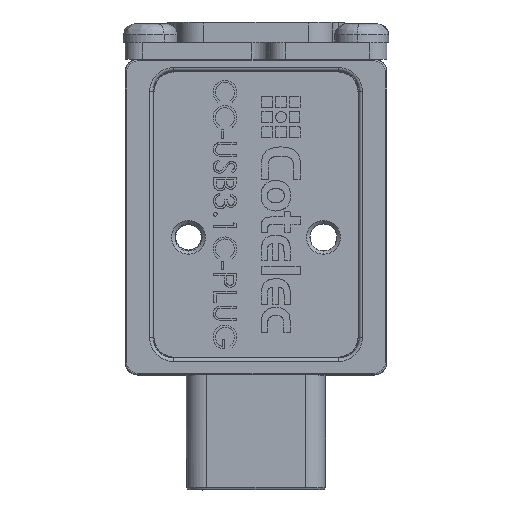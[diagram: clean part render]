
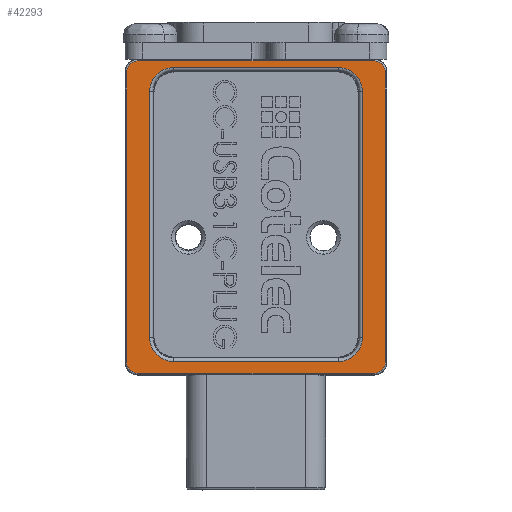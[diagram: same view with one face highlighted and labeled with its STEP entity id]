
A CAD part, front view. The second image highlights one B-rep face of the part: STEP entity #42293.
In plain terms, the highlighted planar face has unit normal (0, -1, 0).
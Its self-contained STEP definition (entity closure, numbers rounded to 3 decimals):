
#1069 = VERTEX_POINT ( 'NONE', #94620 ) ;
#3414 = DIRECTION ( 'NONE',  ( -1., 0., 0. ) ) ;
#6661 = DIRECTION ( 'NONE',  ( 0., 0., 1. ) ) ;
#7093 = EDGE_CURVE ( 'NONE', #139030, #149103, #85708, .T. ) ;
#7817 = CARTESIAN_POINT ( 'NONE',  ( -4.9, 0., -17.903 ) ) ;
#8335 = EDGE_CURVE ( 'NONE', #173469, #26511, #52121, .T. ) ;
#9746 = VERTEX_POINT ( 'NONE', #133762 ) ;
#11630 = EDGE_CURVE ( 'NONE', #135409, #143140, #79711, .T. ) ;
#12595 = LINE ( 'NONE', #52069, #138072 ) ;
#15011 = CARTESIAN_POINT ( 'NONE',  ( 6.303, 0., -1.9 ) ) ;
#15417 = EDGE_CURVE ( 'NONE', #108824, #1069, #65138, .T. ) ;
#19071 = EDGE_LOOP ( 'NONE', ( #70111, #125282, #143530, #185592, #49155, #134286, #36695, #123161 ) ) ;
#19462 = AXIS2_PLACEMENT_3D ( 'NONE', #176726, #133165, #163522 ) ;
#20229 = ORIENTED_EDGE ( 'NONE', *, *, #126844, .T. ) ;
#20375 = DIRECTION ( 'NONE',  ( 0., 1., 0. ) ) ;
#20555 = CARTESIAN_POINT ( 'NONE',  ( 0., 0., -0.09 ) ) ;
#22078 = ORIENTED_EDGE ( 'NONE', *, *, #15417, .T. ) ;
#22725 = CARTESIAN_POINT ( 'NONE',  ( 6.303, 0., -16.5 ) ) ;
#23563 = LINE ( 'NONE', #20555, #177412 ) ;
#24792 = VECTOR ( 'NONE', #117499, 1000. ) ;
#26511 = VERTEX_POINT ( 'NONE', #165340 ) ;
#27542 = VERTEX_POINT ( 'NONE', #171621 ) ;
#32523 = CARTESIAN_POINT ( 'NONE',  ( 7., 0., -0.75 ) ) ;
#35949 = AXIS2_PLACEMENT_3D ( 'NONE', #40259, #161189, #73988 ) ;
#36254 = DIRECTION ( 'NONE',  ( 0., 0., 1. ) ) ;
#36695 = ORIENTED_EDGE ( 'NONE', *, *, #142561, .T. ) ;
#37085 = CARTESIAN_POINT ( 'NONE',  ( -7., 0., -17.95 ) ) ;
#39066 = DIRECTION ( 'NONE',  ( 0., 1., 0. ) ) ;
#39079 = CARTESIAN_POINT ( 'NONE',  ( -7., 0., -0.75 ) ) ;
#40259 = CARTESIAN_POINT ( 'NONE',  ( -4.9, 0., -16.5 ) ) ;
#41518 = VERTEX_POINT ( 'NONE', #68588 ) ;
#42293 = ADVANCED_FACE ( 'NONE', ( #158554, #182208 ), #85001, .F. ) ;
#45801 = LINE ( 'NONE', #127365, #90846 ) ;
#45865 = DIRECTION ( 'NONE',  ( 0., 0., 1. ) ) ;
#47917 = CARTESIAN_POINT ( 'NONE',  ( 6.303, 0., 0. ) ) ;
#49155 = ORIENTED_EDGE ( 'NONE', *, *, #8335, .T. ) ;
#52069 = CARTESIAN_POINT ( 'NONE',  ( 0., 0., -17.903 ) ) ;
#52121 = LINE ( 'NONE', #183389, #73388 ) ;
#52374 = CARTESIAN_POINT ( 'NONE',  ( 4.9, 0., -17.903 ) ) ;
#54924 = VERTEX_POINT ( 'NONE', #7817 ) ;
#59899 = ORIENTED_EDGE ( 'NONE', *, *, #7093, .T. ) ;
#60275 = CARTESIAN_POINT ( 'NONE',  ( 7., 0., -17.95 ) ) ;
#60472 = DIRECTION ( 'NONE',  ( 0., -1., 0. ) ) ;
#61574 = DIRECTION ( 'NONE',  ( 0., 0., 1. ) ) ;
#62107 = EDGE_CURVE ( 'NONE', #41518, #108824, #74423, .T. ) ;
#62580 = CARTESIAN_POINT ( 'NONE',  ( 7.66, 0., -17.95 ) ) ;
#65138 = LINE ( 'NONE', #192615, #24792 ) ;
#66358 = VERTEX_POINT ( 'NONE', #72680 ) ;
#68588 = CARTESIAN_POINT ( 'NONE',  ( 7., 0., -18.61 ) ) ;
#69568 = DIRECTION ( 'NONE',  ( 0., 0., 1. ) ) ;
#70111 = ORIENTED_EDGE ( 'NONE', *, *, #75360, .T. ) ;
#72680 = CARTESIAN_POINT ( 'NONE',  ( -7., 0., -0.09 ) ) ;
#73388 = VECTOR ( 'NONE', #185303, 1000. ) ;
#73988 = DIRECTION ( 'NONE',  ( 0., 0., 1. ) ) ;
#74423 = CIRCLE ( 'NONE', #81315, 0.66 ) ;
#75169 = AXIS2_PLACEMENT_3D ( 'NONE', #189653, #39066, #144831 ) ;
#75360 = EDGE_CURVE ( 'NONE', #143140, #54924, #12595, .T. ) ;
#79711 = CIRCLE ( 'NONE', #110110, 1.403 ) ;
#81156 = DIRECTION ( 'NONE',  ( 1., 0., 0. ) ) ;
#81315 = AXIS2_PLACEMENT_3D ( 'NONE', #60275, #121101, #61574 ) ;
#81346 = DIRECTION ( 'NONE',  ( 0., 0., -1. ) ) ;
#85001 = PLANE ( 'NONE',  #151193 ) ;
#85672 = DIRECTION ( 'NONE',  ( 0., 0., 1. ) ) ;
#85708 = LINE ( 'NONE', #126259, #109222 ) ;
#86100 = DIRECTION ( 'NONE',  ( 0., -1., 0. ) ) ;
#90846 = VECTOR ( 'NONE', #81156, 1000. ) ;
#94620 = CARTESIAN_POINT ( 'NONE',  ( 7.66, 0., -0.75 ) ) ;
#95956 = EDGE_CURVE ( 'NONE', #171947, #173469, #109102, .T. ) ;
#99007 = DIRECTION ( 'NONE',  ( -1., 0., 0. ) ) ;
#104514 = VERTEX_POINT ( 'NONE', #116266 ) ;
#104661 = CIRCLE ( 'NONE', #195045, 0.66 ) ;
#105445 = EDGE_CURVE ( 'NONE', #26511, #171778, #167866, .T. ) ;
#106059 = ORIENTED_EDGE ( 'NONE', *, *, #62107, .T. ) ;
#108824 = VERTEX_POINT ( 'NONE', #62580 ) ;
#109102 = CIRCLE ( 'NONE', #19462, 1.403 ) ;
#109222 = VECTOR ( 'NONE', #81346, 1000. ) ;
#109344 = ORIENTED_EDGE ( 'NONE', *, *, #165290, .T. ) ;
#110110 = AXIS2_PLACEMENT_3D ( 'NONE', #142697, #20375, #36254 ) ;
#113874 = DIRECTION ( 'NONE',  ( 0., -1., 0. ) ) ;
#116266 = CARTESIAN_POINT ( 'NONE',  ( 7., 0., -0.09 ) ) ;
#117068 = EDGE_CURVE ( 'NONE', #54924, #9746, #158128, .T. ) ;
#117499 = DIRECTION ( 'NONE',  ( 0., 0., 1. ) ) ;
#121101 = DIRECTION ( 'NONE',  ( 0., -1., 0. ) ) ;
#121392 = DIRECTION ( 'NONE',  ( 0., 0., -1. ) ) ;
#121722 = CARTESIAN_POINT ( 'NONE',  ( -7.66, 0., -17.95 ) ) ;
#123161 = ORIENTED_EDGE ( 'NONE', *, *, #11630, .T. ) ;
#125282 = ORIENTED_EDGE ( 'NONE', *, *, #117068, .T. ) ;
#126259 = CARTESIAN_POINT ( 'NONE',  ( -7.66, 0., 0. ) ) ;
#126844 = EDGE_CURVE ( 'NONE', #149103, #27542, #179805, .T. ) ;
#127365 = CARTESIAN_POINT ( 'NONE',  ( 0., 0., -18.61 ) ) ;
#130584 = CARTESIAN_POINT ( 'NONE',  ( 0., 0., 0. ) ) ;
#133165 = DIRECTION ( 'NONE',  ( 0., 1., 0. ) ) ;
#133762 = CARTESIAN_POINT ( 'NONE',  ( -6.303, 0., -16.5 ) ) ;
#134286 = ORIENTED_EDGE ( 'NONE', *, *, #105445, .T. ) ;
#135409 = VERTEX_POINT ( 'NONE', #22725 ) ;
#138024 = CARTESIAN_POINT ( 'NONE',  ( -6.303, 0., -1.9 ) ) ;
#138072 = VECTOR ( 'NONE', #99007, 1000. ) ;
#138366 = EDGE_CURVE ( 'NONE', #9746, #171947, #144189, .T. ) ;
#139030 = VERTEX_POINT ( 'NONE', #159238 ) ;
#141662 = VECTOR ( 'NONE', #121392, 1000. ) ;
#142561 = EDGE_CURVE ( 'NONE', #171778, #135409, #172353, .T. ) ;
#142697 = CARTESIAN_POINT ( 'NONE',  ( 4.9, 0., -16.5 ) ) ;
#143140 = VERTEX_POINT ( 'NONE', #52374 ) ;
#143530 = ORIENTED_EDGE ( 'NONE', *, *, #138366, .T. ) ;
#144189 = LINE ( 'NONE', #151007, #189008 ) ;
#144831 = DIRECTION ( 'NONE',  ( 0., 0., 1. ) ) ;
#145713 = DIRECTION ( 'NONE',  ( 0., 1., 0. ) ) ;
#148910 = AXIS2_PLACEMENT_3D ( 'NONE', #37085, #113874, #6661 ) ;
#149103 = VERTEX_POINT ( 'NONE', #121722 ) ;
#149523 = EDGE_LOOP ( 'NONE', ( #159097, #106059, #22078, #169682, #191737, #109344, #59899, #20229 ) ) ;
#151007 = CARTESIAN_POINT ( 'NONE',  ( -6.303, 0., 0. ) ) ;
#151193 = AXIS2_PLACEMENT_3D ( 'NONE', #130584, #145713, #85672 ) ;
#158128 = CIRCLE ( 'NONE', #35949, 1.403 ) ;
#158554 = FACE_OUTER_BOUND ( 'NONE', #149523, .T. ) ;
#159097 = ORIENTED_EDGE ( 'NONE', *, *, #172052, .T. ) ;
#159238 = CARTESIAN_POINT ( 'NONE',  ( -7.66, 0., -0.75 ) ) ;
#161189 = DIRECTION ( 'NONE',  ( 0., 1., 0. ) ) ;
#163522 = DIRECTION ( 'NONE',  ( 0., 0., 1. ) ) ;
#165290 = EDGE_CURVE ( 'NONE', #66358, #139030, #104661, .T. ) ;
#165340 = CARTESIAN_POINT ( 'NONE',  ( 4.9, 0., -0.497 ) ) ;
#166211 = DIRECTION ( 'NONE',  ( 0., 0., 1. ) ) ;
#167866 = CIRCLE ( 'NONE', #75169, 1.403 ) ;
#169682 = ORIENTED_EDGE ( 'NONE', *, *, #193215, .T. ) ;
#171621 = CARTESIAN_POINT ( 'NONE',  ( -7., 0., -18.61 ) ) ;
#171778 = VERTEX_POINT ( 'NONE', #15011 ) ;
#171947 = VERTEX_POINT ( 'NONE', #138024 ) ;
#172052 = EDGE_CURVE ( 'NONE', #27542, #41518, #45801, .T. ) ;
#172353 = LINE ( 'NONE', #47917, #141662 ) ;
#173188 = AXIS2_PLACEMENT_3D ( 'NONE', #32523, #60472, #45865 ) ;
#173469 = VERTEX_POINT ( 'NONE', #178563 ) ;
#176726 = CARTESIAN_POINT ( 'NONE',  ( -4.9, 0., -1.9 ) ) ;
#177412 = VECTOR ( 'NONE', #3414, 1000. ) ;
#178563 = CARTESIAN_POINT ( 'NONE',  ( -4.9, 0., -0.497 ) ) ;
#179805 = CIRCLE ( 'NONE', #148910, 0.66 ) ;
#182208 = FACE_BOUND ( 'NONE', #19071, .T. ) ;
#183389 = CARTESIAN_POINT ( 'NONE',  ( 0., 0., -0.497 ) ) ;
#184346 = CIRCLE ( 'NONE', #173188, 0.66 ) ;
#185303 = DIRECTION ( 'NONE',  ( 1., 0., 0. ) ) ;
#185592 = ORIENTED_EDGE ( 'NONE', *, *, #95956, .T. ) ;
#189008 = VECTOR ( 'NONE', #166211, 1000. ) ;
#189653 = CARTESIAN_POINT ( 'NONE',  ( 4.9, 0., -1.9 ) ) ;
#191737 = ORIENTED_EDGE ( 'NONE', *, *, #193292, .T. ) ;
#192615 = CARTESIAN_POINT ( 'NONE',  ( 7.66, 0., 0. ) ) ;
#193215 = EDGE_CURVE ( 'NONE', #1069, #104514, #184346, .T. ) ;
#193292 = EDGE_CURVE ( 'NONE', #104514, #66358, #23563, .T. ) ;
#195045 = AXIS2_PLACEMENT_3D ( 'NONE', #39079, #86100, #69568 ) ;
